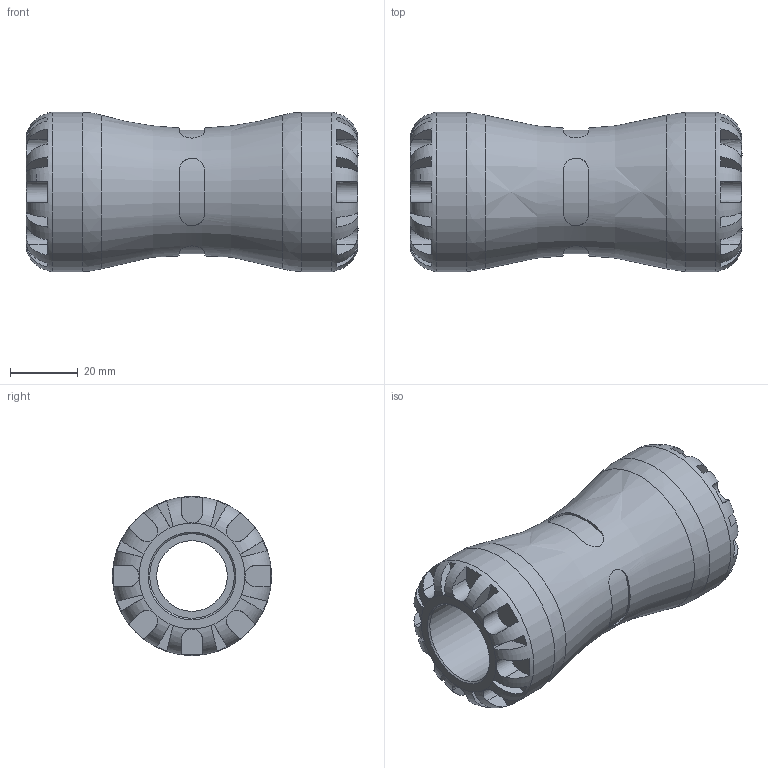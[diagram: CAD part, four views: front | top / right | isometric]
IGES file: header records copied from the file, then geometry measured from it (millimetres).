
Global section: file name: 100100025_190100025.ipt; native system: Autodesk Inventor 2015; preprocessor: unknown; author: KIM; date: 20170117.105920; units: millimetre
Bounding box: 98 x 47 x 47 mm (x, y, z)
Volume: 88698.5 mm3; surface area: 25204.9 mm2
Topology: 1 solids, 1 shells, 164 faces, 427 edges, 270 vertices
Faces by surface type: plane 108, revolution 34, cylinder 22
Full cylindrical faces by diameter (mm): 47 x2
